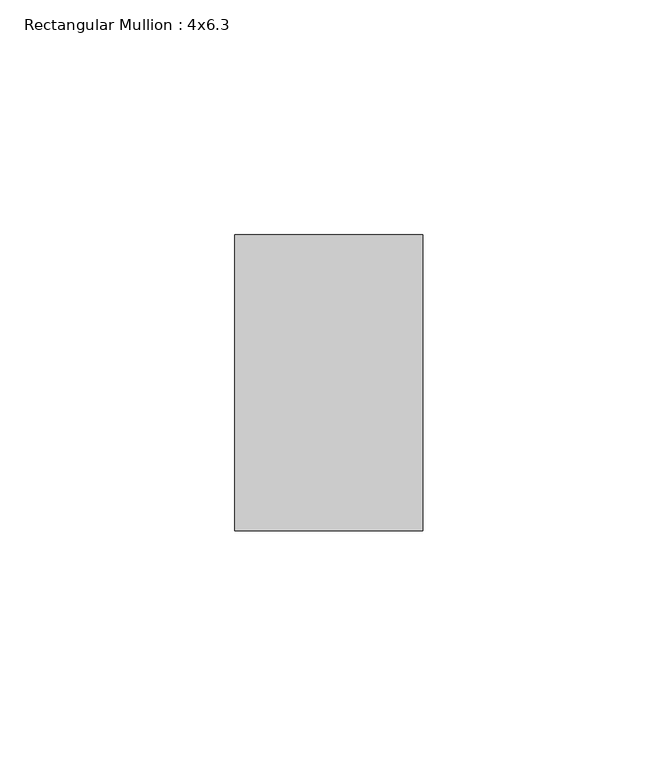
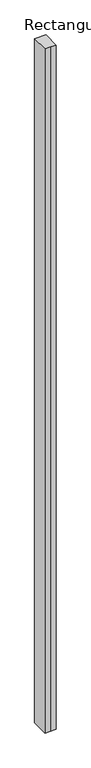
"""IFC4 building model written with IfcOpenShell, lengths in millimetres: member geometry, Rectangular Mullion : 4x6.3."""

from ifc_helpers import new_model, si_unit, frame, origin, place, context, project, spatial, polyline, outline, extrude, source, transform, mapped, element, save


def rectangular_mullion_4x6_3_2b234f33(model_context):
    return source(origin(), model_context, "Body", "SweptSolid", [
        extrude(outline(polyline([(-20.0, 20.0), (-20.0, 83.0), (20.0, 83.0), (20.0, 20.0), (0.0, 20.0), (-20.0, 20.0)])), frame((0.0, 0.0, -2590.3582948), z_axis=(0.0, 0.0, 1.0), x_axis=(1.0, 0.0, 0.0)), (0.0, 0.0, 1.0), 2590.3582948),
    ])


if __name__ == "__main__":
    model = new_model("IFC4")
    model_context = context("Model", 3, world=origin())
    ifc_project = project(units=[si_unit("LENGTHUNIT", "METRE", prefix="MILLI")], contexts=[model_context])
    site = spatial("IfcSite", under=ifc_project)
    building = spatial("IfcBuilding", under=site)
    placement = place(None, origin())
    rectangular_mullion_4x6_3_shape = rectangular_mullion_4x6_3_2b234f33(model_context)
    element("IfcMember", 1, ObjectType="Rectangular Mullion : 4x6.3", at=placement, inside=building, context=model_context, shape_type="MappedRepresentation", body=[
        mapped(rectangular_mullion_4x6_3_shape, transform((0.0, 0.0, 0.0), x_axis=(1.0, 0.0, 0.0), y_axis=(0.0, 1.0, 0.0), z_axis=(0.0, 0.0, 1.0))),
    ])
    save(model, "model.ifc")
